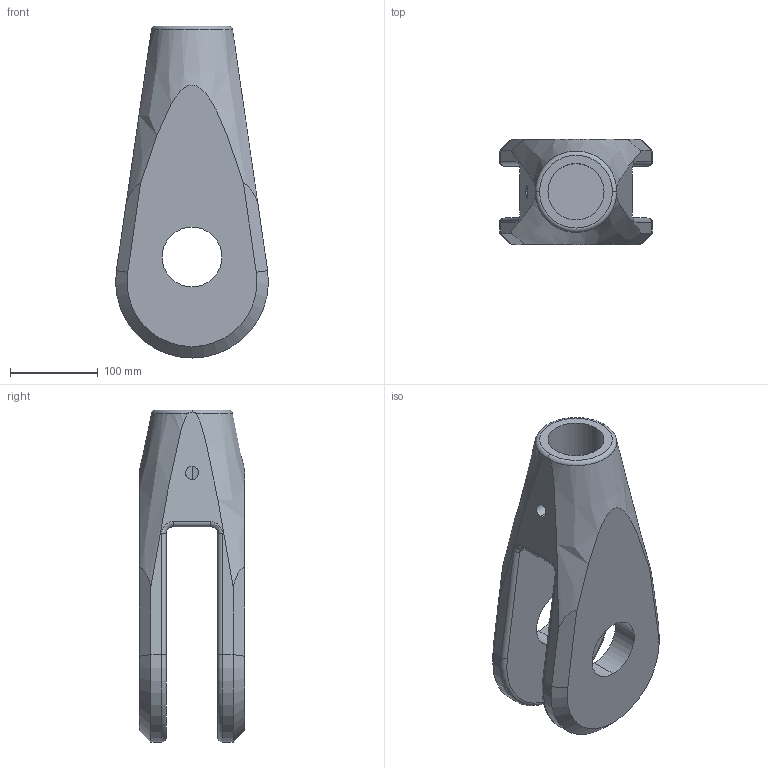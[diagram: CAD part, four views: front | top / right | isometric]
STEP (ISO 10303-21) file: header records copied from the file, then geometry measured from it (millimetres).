
FILE_DESCRIPTION (( 'STEP AP203' ), '1' );
FILE_NAME ('Gabelkopf M64.STEP', '2018-02-20T06:39:39', ( 'install' ), ( 'Hewlett-Packard Company' ), 'SwSTEP 2.0', 'SolidWorks 2017', '' );
FILE_SCHEMA (( 'CONFIG_CONTROL_DESIGN' ));
Length unit declared in the file: millimetre
Products named in the file (1): Gabelkopf M64
Bounding box: 173.94 x 119.6 x 378 mm (x, y, z)
Volume: 2859436.8 mm3; surface area: 255219.2 mm2
Topology: 1 solids, 1 shells, 47 faces, 115 edges, 70 vertices
Faces by surface type: cylinder 20, plane 13, cone 5, torus 5, bspline 4
Entity records: 2016 total; most frequent: CARTESIAN_POINT 864, ORIENTED_EDGE 230, DIRECTION 222, EDGE_CURVE 115, AXIS2_PLACEMENT_3D 89, VERTEX_POINT 70, EDGE_LOOP 53, ADVANCED_FACE 47
